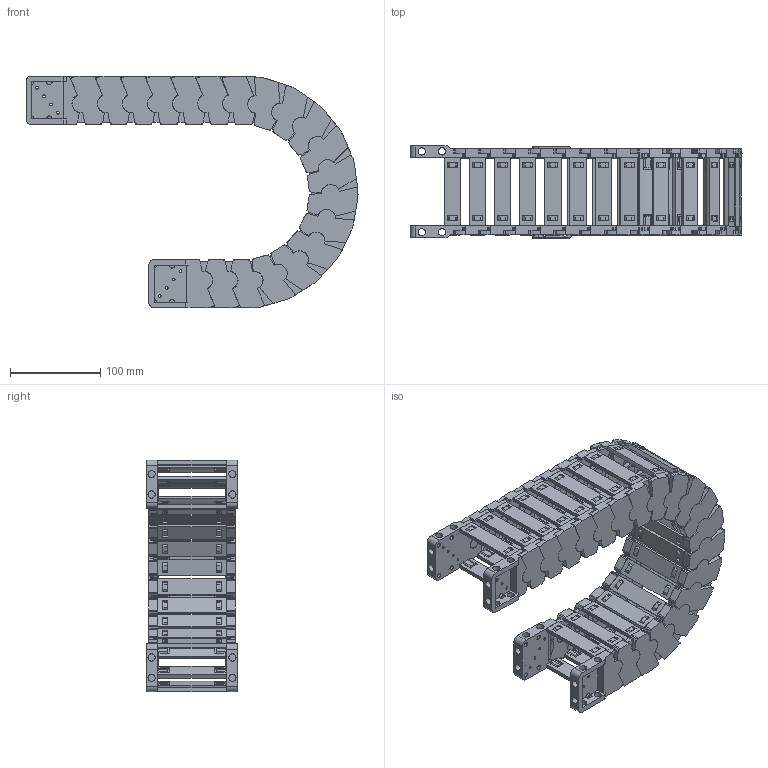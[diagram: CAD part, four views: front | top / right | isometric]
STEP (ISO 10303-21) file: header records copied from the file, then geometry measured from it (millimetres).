
FILE_DESCRIPTION((''),'2;1');
FILE_NAME('JY-42X75-R100_ASM','2022-05-06T10:55:49',('admin'),(''),'CREO PARAMETRIC BY PTC INC, 2021164','CREO PARAMETRIC BY PTC INC, 2021164','');
FILE_SCHEMA(('CONFIG_CONTROL_DESIGN','GEOMETRIC_VALIDATION_PROPERTIES_MIM'));
Length unit declared in the file: millimetre
Products named in the file (11): 42XL-L; 42-52XL-YP; 42XL-R; ASM0001_ASM; 42-LTT-A-L; 42-LTT-A-R; 42XL-LTT-A_ASM; 42-LTT-B-L; 42-LTT-B-R; 42XL-LTT-B_ASM; JY-42X75-R100_ASM
Assembly tree (33 placements, depth 3):
  JY-42X75-R100_ASM
    ASM0001_ASM  x19
      42XL-L
      42-52XL-YP
      42XL-R
    42XL-LTT-A_ASM
      42-LTT-A-L
      42-52XL-YP  x2
      42-LTT-A-R
    42XL-LTT-B_ASM
      42-LTT-B-L
      42-52XL-YP  x2
      42-LTT-B-R
Bounding box: 367.66 x 101.5 x 256.52 mm (x, y, z)
Volume: 833985 mm3; surface area: 484846.3 mm2
Topology: 84 solids, 84 shells, 4608 faces, 13808 edges, 9344 vertices
Faces by surface type: plane 3070, cylinder 1068, cone 380, bspline 72, torus 18
Entity records: 27251 total; most frequent: CARTESIAN_POINT 7390, ORIENTED_EDGE 4024, DIRECTION 3964, EDGE_CURVE 2012, AXIS2_PLACEMENT_3D 1432, VERTEX_POINT 1360, VECTOR 1100, LINE 1100
